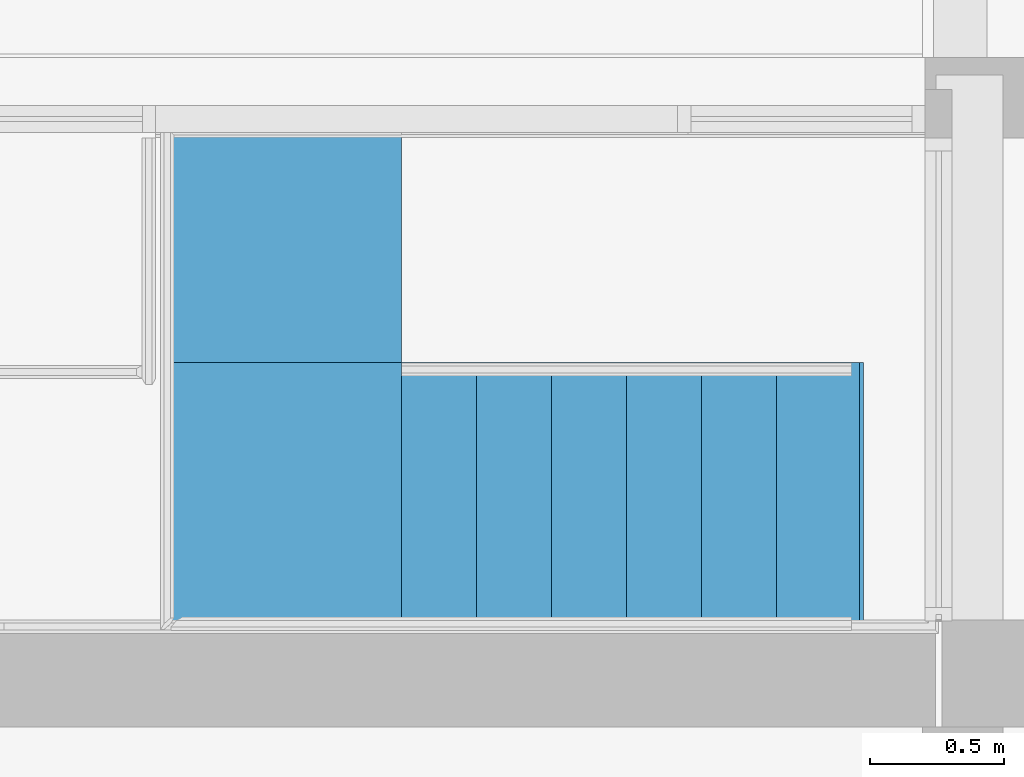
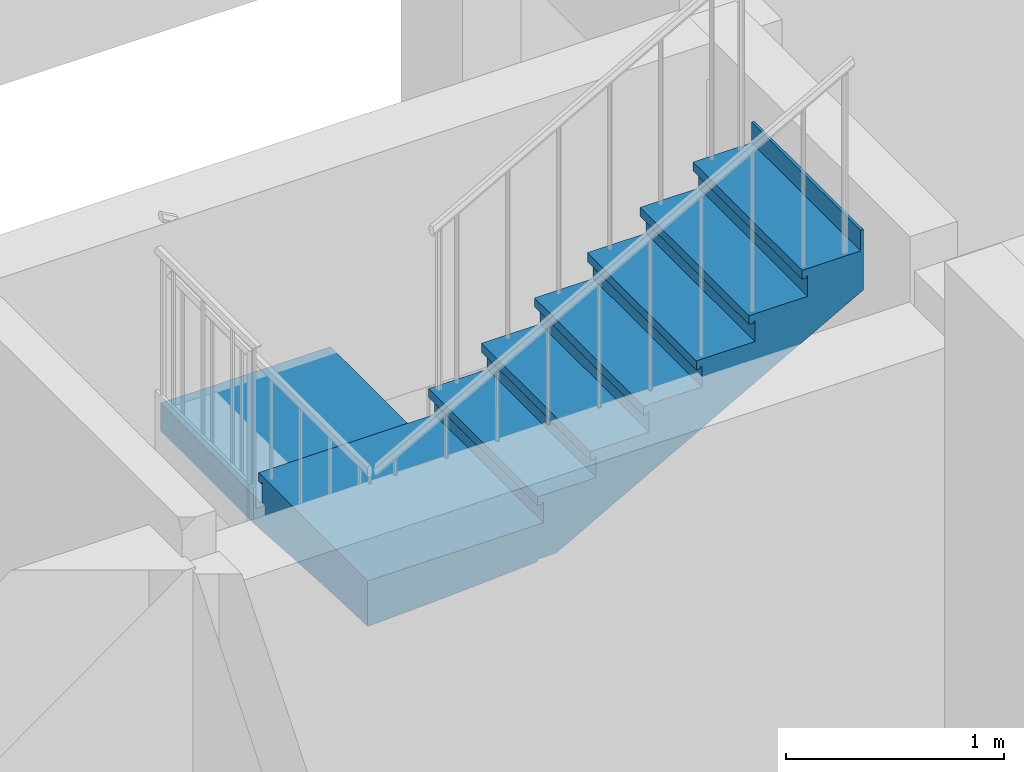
# One storey, part 99 of 117: 1 stair flight, 1 element without a shape of its own.
"""IFC4 building model written with IfcOpenShell, lengths in metres."""

from ifc_helpers import new_model, entity, si_unit, converted_unit, derived_unit, direction, frame, origin, place, context, subcontext, project, spatial, polygons, material, constituent, constituent_set, type_object, element, aggregate, save


model = new_model("IFC4")

# Units and contexts
model_context = context("Model", 3, precision=1e-05, world=origin(), true_north=direction((6.123031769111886e-17, 1.0)))
body_context = subcontext(model_context, "Body", "Model", "MODEL_VIEW")
ifc_project = project(units=[si_unit("LENGTHUNIT", "METRE"), si_unit("AREAUNIT", "SQUARE_METRE"), si_unit("VOLUMEUNIT", "CUBIC_METRE"), converted_unit("PLANEANGLEUNIT", "DEGREE", entity("IfcRatioMeasure", 0.017453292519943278), si_unit("PLANEANGLEUNIT", "RADIAN"), dimensions=[0, 0, 0, 0, 0, 0, 0]), si_unit("MASSUNIT", "GRAM", prefix="KILO"), derived_unit("MASSDENSITYUNIT", [(si_unit("MASSUNIT", "GRAM", prefix="KILO"), 1), (si_unit("LENGTHUNIT", "METRE"), -3)]), derived_unit("MOMENTOFINERTIAUNIT", [(si_unit("LENGTHUNIT", "METRE"), 4)]), si_unit("TIMEUNIT", "SECOND"), si_unit("FREQUENCYUNIT", "HERTZ"), si_unit("THERMODYNAMICTEMPERATUREUNIT", "DEGREE_CELSIUS"), derived_unit("THERMALTRANSMITTANCEUNIT", [(si_unit("MASSUNIT", "GRAM", prefix="KILO"), 1), (si_unit("THERMODYNAMICTEMPERATUREUNIT", "KELVIN"), -1), (si_unit("TIMEUNIT", "SECOND"), -3)]), derived_unit("VOLUMETRICFLOWRATEUNIT", [(si_unit("LENGTHUNIT", "METRE"), 3), (si_unit("TIMEUNIT", "SECOND"), -1)]), derived_unit("MASSFLOWRATEUNIT", [(si_unit("MASSUNIT", "GRAM", prefix="KILO"), 1), (si_unit("TIMEUNIT", "SECOND"), -1)]), derived_unit("ROTATIONALFREQUENCYUNIT", [(si_unit("TIMEUNIT", "SECOND"), -1)]), si_unit("ELECTRICCURRENTUNIT", "AMPERE"), si_unit("ELECTRICVOLTAGEUNIT", "VOLT"), si_unit("POWERUNIT", "WATT"), si_unit("FORCEUNIT", "NEWTON", prefix="KILO"), si_unit("ILLUMINANCEUNIT", "LUX"), si_unit("LUMINOUSFLUXUNIT", "LUMEN"), si_unit("LUMINOUSINTENSITYUNIT", "CANDELA"), derived_unit("USERDEFINED", [(si_unit("MASSUNIT", "GRAM", prefix="KILO"), -1), (si_unit("LENGTHUNIT", "METRE"), -2), (si_unit("TIMEUNIT", "SECOND"), 3), (si_unit("LUMINOUSFLUXUNIT", "LUMEN"), 1)]), derived_unit("SOUNDPOWERUNIT", [(si_unit("MASSUNIT", "GRAM", prefix="KILO"), 1), (si_unit("LENGTHUNIT", "METRE"), 2), (si_unit("TIMEUNIT", "SECOND"), -3)]), derived_unit("SOUNDPRESSUREUNIT", [(si_unit("MASSUNIT", "GRAM", prefix="KILO"), 1), (si_unit("LENGTHUNIT", "METRE"), -1), (si_unit("TIMEUNIT", "SECOND"), -2)]), derived_unit("LINEARVELOCITYUNIT", [(si_unit("LENGTHUNIT", "METRE"), 1), (si_unit("TIMEUNIT", "SECOND"), -1)]), si_unit("PRESSUREUNIT", "PASCAL"), derived_unit("USERDEFINED", [(si_unit("LENGTHUNIT", "METRE"), -2), (si_unit("MASSUNIT", "GRAM", prefix="KILO"), 1), (si_unit("TIMEUNIT", "SECOND"), -2)]), derived_unit("LINEARFORCEUNIT", [(si_unit("MASSUNIT", "GRAM", prefix="KILO"), 1), (si_unit("LENGTHUNIT", "METRE"), 1), (si_unit("TIMEUNIT", "SECOND"), -2), (si_unit("LENGTHUNIT", "METRE"), -1)]), derived_unit("PLANARFORCEUNIT", [(si_unit("MASSUNIT", "GRAM", prefix="KILO"), 1), (si_unit("LENGTHUNIT", "METRE"), 1), (si_unit("TIMEUNIT", "SECOND"), -2), (si_unit("LENGTHUNIT", "METRE"), -2)])], contexts=[model_context])

# Site, building, storey
site_placement = place(None, origin())
site = spatial("IfcSite", under=ifc_project, at=site_placement, Name="Superficie", CompositionType="ELEMENT")
building_placement = place(site_placement, origin())
building = spatial("IfcBuilding", under=site, at=building_placement, CompositionType="ELEMENT")
storey_placement = place(building_placement, origin())
storey = spatial("IfcBuildingStorey", under=building, at=storey_placement, Name="Nivel 0", CompositionType="ELEMENT", Elevation=0.0)

# Stair, stair flight
stair_type = type_object("IfcStairType", Name="Escalera prefabricada:Escalera prefabricada", PredefinedType="NOTDEFINED")
stair_placement = place(storey_placement, origin())
stair = element("IfcStair", 1, at=stair_placement, inside=storey, type_object=stair_type, Name="Escalera prefabricada:Escalera", ObjectType="Escalera prefabricada:Escalera prefabricada", PredefinedType="NOTDEFINED")
ifc_material_1 = material(Name="Cerámica blanca", Category="Cerámica")
ifc_constituent_1 = constituent(ifc_material_1, Name="Cerámica blanca", Category="Cerámica")
ifc_material_2 = material(Name="Hormigón", Category="Hormigón")
ifc_constituent_2 = constituent(ifc_material_2, Name="Hormigón", Category="Hormigón")
ifc_constituent_set = constituent_set(constituents=[ifc_constituent_1, ifc_constituent_2], Name="MaterialConstituentSet")
stair_flight_type = type_object("IfcStairFlightType", Name="Tramo monolítico:Huella 40 mm Mamperlán 30 mm Contrahuella 15 mm", PredefinedType="NOTDEFINED")
stair_flight_placement = place(stair_placement, frame((-6.300593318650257, 10.729234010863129, 0.0)))
stair_flight = element("IfcStairFlight", 2, at=stair_flight_placement, type_object=stair_flight_type, material=ifc_constituent_set, Name="Escalera prefabricada:Escalera:546754 Run 1", ObjectType="Tramo monolítico:Huella 40 mm Mamperlán 30 mm Contrahuella 15 mm", PredefinedType="NOTDEFINED", context=body_context, shape_type="Tessellation", body=[
    polygons([(0.9015952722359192, 1.901595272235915, 2.7055555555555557), (0.9015952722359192, 1.901595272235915, 2.755555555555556), (0.9015952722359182, 0.9565952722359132, 2.755555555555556), (0.9015952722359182, 0.9565952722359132, 2.7055555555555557), (0.878595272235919, 1.901595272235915, 2.7055555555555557), (0.8785952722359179, 0.9565952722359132, 2.7055555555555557), (0.8785952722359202, 1.901595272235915, 2.7155555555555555), (0.8785952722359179, 0.9565952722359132, 2.7155555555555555), (0.0015952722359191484, 1.901595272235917, 2.755555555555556), (0.0015952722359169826, 0.9565952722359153, 2.755555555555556), (0.0015952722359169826, 0.9565952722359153, 2.7155555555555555), (0.0015952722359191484, 1.901595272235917, 2.7155555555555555)], [[[1, 2, 3, 4]], [[5, 1, 4, 6]], [[7, 5, 6, 8]], [[9, 10, 3, 2]], [[7, 8, 11, 12]], [[9, 2, 1, 5, 7, 12]], [[10, 9, 12, 11]], [[3, 10, 11, 8, 6, 4]]], closed=True),
    polygons([(0.8715952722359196, 1.901595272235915, 2.7155555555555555), (0.8715952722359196, 1.901595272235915, 2.6), (0.8565952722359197, 1.901595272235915, 2.6), (0.8565952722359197, 1.901595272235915, 2.7155555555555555), (0.8715952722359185, 0.9565952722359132, 2.7155555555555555), (0.8565952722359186, 0.9565952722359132, 2.7155555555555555), (0.8565952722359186, 0.9565952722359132, 2.6), (0.8715952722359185, 0.9565952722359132, 2.6)], [[[1, 2, 3, 4]], [[5, 6, 7, 8]], [[2, 1, 5, 8]], [[3, 2, 8, 7]], [[4, 3, 7, 6]], [[1, 4, 6, 5]]], closed=True),
    polygons([(0.0015952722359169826, 0.9715952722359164, 2.8711111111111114), (0.0015952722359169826, 0.9715952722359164, 2.755555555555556), (0.0015952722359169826, 0.9565952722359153, 2.755555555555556), (0.0015952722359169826, 0.9565952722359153, 2.8711111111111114), (0.9015952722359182, 0.9715952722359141, 2.8711111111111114), (0.9015952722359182, 0.9565952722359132, 2.8711111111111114), (0.9015952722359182, 0.9565952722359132, 2.755555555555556), (0.9015952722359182, 0.9715952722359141, 2.755555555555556)], [[[1, 2, 3, 4]], [[5, 6, 7, 8]], [[2, 1, 5, 8]], [[3, 2, 8, 7]], [[4, 3, 7, 6]], [[1, 4, 6, 5]]], closed=True),
    polygons([(0.0015952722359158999, 0.0015952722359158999, 2.9111111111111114), (0.9465952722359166, 0.001595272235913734, 2.9111111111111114), (0.9465952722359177, 1.0015952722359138, 2.9111111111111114), (0.0015952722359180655, 1.001595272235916, 2.9111111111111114), (0.9015952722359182, 1.0015952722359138, 2.8711111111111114), (0.9465952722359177, 1.0015952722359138, 2.8711111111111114), (0.9465952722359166, 0.001595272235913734, 2.8711111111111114), (0.0015952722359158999, 0.0015952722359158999, 2.8711111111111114), (0.0015952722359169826, 0.9785952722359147, 2.8711111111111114), (0.9015952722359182, 0.9785952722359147, 2.8711111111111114), (0.9015952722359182, 1.0015952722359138, 2.861111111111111), (0.0015952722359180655, 1.001595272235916, 2.861111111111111), (0.0015952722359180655, 0.9785952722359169, 2.861111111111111), (0.9015952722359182, 0.9785952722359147, 2.861111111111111)], [[[1, 2, 3, 4]], [[5, 6, 7, 8, 9, 10]], [[4, 3, 6, 5, 11, 12]], [[1, 4, 12, 13, 9, 8]], [[2, 1, 8, 7]], [[3, 2, 7, 6]], [[14, 11, 5, 10]], [[13, 12, 11, 14]], [[9, 13, 14, 10]]], closed=True),
    polygons([(0.9315952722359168, 0.001595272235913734, 3.026666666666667), (0.9315952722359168, 0.001595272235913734, 2.9111111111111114), (0.9465952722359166, 0.001595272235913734, 2.9111111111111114), (0.9465952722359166, 0.001595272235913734, 3.026666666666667), (0.9315952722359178, 1.0015952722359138, 3.026666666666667), (0.9465952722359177, 1.0015952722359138, 3.026666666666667), (0.9465952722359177, 1.0015952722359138, 2.9111111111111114), (0.9315952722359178, 1.0015952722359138, 2.9111111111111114)], [[[1, 2, 3, 4]], [[5, 6, 7, 8]], [[2, 1, 5, 8]], [[3, 2, 8, 7]], [[4, 3, 7, 6]], [[1, 4, 6, 5]]], closed=True),
    polygons([(0.9015952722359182, 1.0015952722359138, 3.066666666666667), (0.9015952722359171, 0.001595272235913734, 3.066666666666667), (1.2265952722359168, 0.0015952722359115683, 3.066666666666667), (1.226595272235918, 1.0015952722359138, 3.066666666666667), (1.226595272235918, 1.0015952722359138, 3.026666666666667), (1.2265952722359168, 0.0015952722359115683, 3.026666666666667), (0.9245952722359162, 0.001595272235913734, 3.026666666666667), (0.9245952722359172, 1.0015952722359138, 3.026666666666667), (0.9245952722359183, 1.0015952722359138, 3.016666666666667), (0.9015952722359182, 1.0015952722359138, 3.016666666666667), (0.9015952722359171, 0.001595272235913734, 3.016666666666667), (0.9245952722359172, 0.001595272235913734, 3.016666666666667)], [[[1, 2, 3, 4]], [[5, 6, 7, 8]], [[1, 4, 5, 8, 9, 10]], [[3, 2, 11, 12, 7, 6]], [[4, 3, 6, 5]], [[11, 2, 1, 10]], [[12, 11, 10, 9]], [[7, 12, 9, 8]]], closed=True),
    polygons([(1.211595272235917, 0.0015952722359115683, 3.1822222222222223), (1.211595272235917, 0.0015952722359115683, 3.066666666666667), (1.2265952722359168, 0.0015952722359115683, 3.066666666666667), (1.2265952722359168, 0.0015952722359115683, 3.1822222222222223), (1.211595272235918, 1.0015952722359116, 3.1822222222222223), (1.226595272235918, 1.0015952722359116, 3.1822222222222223), (1.226595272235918, 1.0015952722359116, 3.066666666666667), (1.211595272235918, 1.0015952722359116, 3.066666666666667)], [[[1, 2, 3, 4]], [[5, 6, 7, 8]], [[2, 1, 5, 8]], [[3, 2, 8, 7]], [[4, 3, 7, 6]], [[1, 4, 6, 5]]], closed=True),
    polygons([(1.1815952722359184, 1.0015952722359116, 3.2222222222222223), (1.1815952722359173, 0.0015952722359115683, 3.2222222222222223), (1.506595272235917, 0.0015952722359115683, 3.2222222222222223), (1.5065952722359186, 1.0015952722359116, 3.2222222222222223), (1.5065952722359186, 1.0015952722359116, 3.1822222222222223), (1.506595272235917, 0.0015952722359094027, 3.1822222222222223), (1.2045952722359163, 0.0015952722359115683, 3.1822222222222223), (1.2045952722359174, 1.0015952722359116, 3.1822222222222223), (1.2045952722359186, 1.0015952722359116, 3.1722222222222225), (1.1815952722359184, 1.0015952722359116, 3.1722222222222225), (1.1815952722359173, 0.0015952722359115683, 3.1722222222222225), (1.2045952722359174, 0.0015952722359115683, 3.1722222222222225)], [[[1, 2, 3, 4]], [[5, 6, 7, 8]], [[1, 4, 5, 8, 9, 10]], [[3, 2, 11, 12, 7, 6]], [[4, 3, 6, 5]], [[11, 2, 1, 10]], [[12, 11, 10, 9]], [[7, 12, 9, 8]]], closed=True),
    polygons([(1.4915952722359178, 0.0015952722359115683, 3.3377777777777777), (1.4915952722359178, 0.0015952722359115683, 3.2222222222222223), (1.506595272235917, 0.0015952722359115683, 3.2222222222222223), (1.506595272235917, 0.0015952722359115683, 3.3377777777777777), (1.4915952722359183, 1.0015952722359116, 3.3377777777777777), (1.5065952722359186, 1.0015952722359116, 3.3377777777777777), (1.5065952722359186, 1.0015952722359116, 3.2222222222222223), (1.4915952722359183, 1.0015952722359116, 3.2222222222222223)], [[[1, 2, 3, 4]], [[5, 6, 7, 8]], [[2, 1, 5, 8]], [[3, 2, 8, 7]], [[4, 3, 7, 6]], [[1, 4, 6, 5]]], closed=True),
    polygons([(1.4615952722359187, 1.0015952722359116, 3.377777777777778), (1.461595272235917, 0.0015952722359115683, 3.377777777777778), (1.7865952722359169, 0.0015952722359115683, 3.377777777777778), (1.7865952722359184, 1.0015952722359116, 3.377777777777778), (1.7865952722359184, 1.0015952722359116, 3.3377777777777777), (1.7865952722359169, 0.0015952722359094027, 3.3377777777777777), (1.4845952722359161, 0.0015952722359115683, 3.3377777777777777), (1.4845952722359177, 1.0015952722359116, 3.3377777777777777), (1.4845952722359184, 1.0015952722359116, 3.327777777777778), (1.4615952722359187, 1.0015952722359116, 3.327777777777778), (1.461595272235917, 0.0015952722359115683, 3.327777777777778), (1.4845952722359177, 0.0015952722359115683, 3.327777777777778)], [[[1, 2, 3, 4]], [[5, 6, 7, 8]], [[1, 4, 5, 8, 9, 10]], [[3, 2, 11, 12, 7, 6]], [[4, 3, 6, 5]], [[11, 2, 1, 10]], [[12, 11, 10, 9]], [[7, 12, 9, 8]]], closed=True),
    polygons([(1.7715952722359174, 0.0015952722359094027, 3.4933333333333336), (1.7715952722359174, 0.0015952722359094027, 3.3777777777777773), (1.7865952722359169, 0.0015952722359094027, 3.3777777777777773), (1.7865952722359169, 0.0015952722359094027, 3.4933333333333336), (1.7715952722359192, 1.0015952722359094, 3.4933333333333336), (1.7865952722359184, 1.0015952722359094, 3.4933333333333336), (1.7865952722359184, 1.0015952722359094, 3.3777777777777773), (1.7715952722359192, 1.0015952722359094, 3.3777777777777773)], [[[1, 2, 3, 4]], [[5, 6, 7, 8]], [[2, 1, 5, 8]], [[3, 2, 8, 7]], [[4, 3, 7, 6]], [[1, 4, 6, 5]]], closed=True),
    polygons([(1.7415952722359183, 1.0015952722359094, 3.533333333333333), (1.7415952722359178, 0.0015952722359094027, 3.533333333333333), (2.0665952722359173, 0.001595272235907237, 3.533333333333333), (2.066595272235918, 1.0015952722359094, 3.533333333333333), (2.066595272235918, 1.0015952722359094, 3.4933333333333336), (2.0665952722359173, 0.001595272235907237, 3.4933333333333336), (1.7645952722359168, 0.0015952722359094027, 3.4933333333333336), (1.7645952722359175, 1.0015952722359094, 3.4933333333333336), (1.764595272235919, 1.0015952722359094, 3.4833333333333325), (1.7415952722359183, 1.0015952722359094, 3.4833333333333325), (1.7415952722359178, 0.0015952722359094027, 3.4833333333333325), (1.7645952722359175, 0.0015952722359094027, 3.4833333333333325)], [[[1, 2, 3, 4]], [[5, 6, 7, 8]], [[1, 4, 5, 8, 9, 10]], [[3, 2, 11, 12, 7, 6]], [[4, 3, 6, 5]], [[11, 2, 1, 10]], [[12, 11, 10, 9]], [[7, 12, 9, 8]]], closed=True),
    polygons([(2.051595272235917, 0.0015952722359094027, 3.648888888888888), (2.051595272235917, 0.0015952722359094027, 3.533333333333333), (2.0665952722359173, 0.0015952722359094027, 3.533333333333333), (2.0665952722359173, 0.0015952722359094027, 3.648888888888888), (2.051595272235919, 1.0015952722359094, 3.648888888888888), (2.066595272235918, 1.0015952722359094, 3.648888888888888), (2.066595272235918, 1.0015952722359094, 3.533333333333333), (2.051595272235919, 1.0015952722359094, 3.533333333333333)], [[[1, 2, 3, 4]], [[5, 6, 7, 8]], [[2, 1, 5, 8]], [[3, 2, 8, 7]], [[4, 3, 7, 6]], [[1, 4, 6, 5]]], closed=True),
    polygons([(2.021595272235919, 1.0015952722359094, 3.6888888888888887), (2.0215952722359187, 0.0015952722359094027, 3.6888888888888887), (2.3465952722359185, 0.001595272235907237, 3.6888888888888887), (2.346595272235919, 1.0015952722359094, 3.6888888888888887), (2.346595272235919, 1.0015952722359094, 3.648888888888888), (2.3465952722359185, 0.001595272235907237, 3.648888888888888), (2.0445952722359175, 0.0015952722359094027, 3.648888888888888), (2.0445952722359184, 1.0015952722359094, 3.648888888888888), (2.044595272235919, 1.0015952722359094, 3.6388888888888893), (2.0215952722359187, 1.0015952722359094, 3.6388888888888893), (2.0215952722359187, 0.0015952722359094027, 3.6388888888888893), (2.0445952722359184, 0.0015952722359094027, 3.6388888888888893)], [[[1, 2, 3, 4]], [[5, 6, 7, 8]], [[1, 4, 5, 8, 9, 10]], [[3, 2, 11, 12, 7, 6]], [[4, 3, 6, 5]], [[11, 2, 1, 10]], [[12, 11, 10, 9]], [[7, 12, 9, 8]]], closed=True),
    polygons([(2.331595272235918, 0.001595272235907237, 3.8044444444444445), (2.331595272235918, 0.001595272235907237, 3.6888888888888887), (2.3465952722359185, 0.001595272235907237, 3.6888888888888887), (2.3465952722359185, 0.001595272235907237, 3.8044444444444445), (2.3315952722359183, 1.0015952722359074, 3.8044444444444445), (2.346595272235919, 1.0015952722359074, 3.8044444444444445), (2.346595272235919, 1.0015952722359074, 3.6888888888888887), (2.3315952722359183, 1.0015952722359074, 3.6888888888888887)], [[[1, 2, 3, 4]], [[5, 6, 7, 8]], [[2, 1, 5, 8]], [[3, 2, 8, 7]], [[4, 3, 7, 6]], [[1, 4, 6, 5]]], closed=True),
    polygons([(2.6115952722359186, 0.001595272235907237, 3.959999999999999), (2.6115952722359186, 0.001595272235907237, 3.844444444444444), (2.6265952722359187, 0.001595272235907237, 3.844444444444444), (2.6265952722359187, 0.001595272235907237, 3.959999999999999), (2.61159527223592, 1.0015952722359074, 3.959999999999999), (2.6265952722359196, 1.0015952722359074, 3.959999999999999), (2.6265952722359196, 1.0015952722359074, 3.844444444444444), (2.61159527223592, 1.0015952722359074, 3.844444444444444)], [[[1, 2, 3, 4]], [[5, 6, 7, 8]], [[2, 1, 5, 8]], [[3, 2, 8, 7]], [[4, 3, 7, 6]], [[1, 4, 6, 5]]], closed=True),
    polygons([(2.301595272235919, 1.0015952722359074, 3.844444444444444), (2.301595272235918, 0.001595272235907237, 3.844444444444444), (2.626595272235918, 0.001595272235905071, 3.844444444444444), (2.6265952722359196, 1.0015952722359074, 3.844444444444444), (2.6265952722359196, 1.0015952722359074, 3.8044444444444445), (2.626595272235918, 0.001595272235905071, 3.8044444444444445), (2.3245952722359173, 0.001595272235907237, 3.8044444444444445), (2.3245952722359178, 1.0015952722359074, 3.8044444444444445), (2.324595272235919, 1.0015952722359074, 3.794444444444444), (2.301595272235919, 1.0015952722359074, 3.794444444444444), (2.301595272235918, 0.001595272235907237, 3.794444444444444), (2.324595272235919, 0.001595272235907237, 3.794444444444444)], [[[1, 2, 3, 4]], [[5, 6, 7, 8]], [[1, 4, 5, 8, 9, 10]], [[3, 2, 11, 12, 7, 6]], [[4, 3, 6, 5]], [[11, 2, 1, 10]], [[12, 11, 10, 9]], [[7, 12, 9, 8]]], closed=True),
    polygons([(0.8565952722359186, 0.9565952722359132, 2.7155555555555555), (0.8565952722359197, 1.901595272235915, 2.7155555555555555), (0.0015952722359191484, 1.901595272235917, 2.7155555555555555), (0.0015952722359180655, 0.9565952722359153, 2.7155555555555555), (0.8565952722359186, 0.9565952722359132, 2.6519287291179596), (0.8565952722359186, 0.9814046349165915, 2.6279211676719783), (0.8565952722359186, 1.001647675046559, 2.6), (0.8565952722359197, 1.901595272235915, 2.6), (0.0015952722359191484, 1.901595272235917, 2.6), (0.0015952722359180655, 1.0026433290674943, 2.6), (0.0015952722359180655, 0.9796193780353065, 2.6016886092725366), (0.0015952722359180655, 0.9565952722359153, 2.6033751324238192), (0.9465952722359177, 1.0015952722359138, 2.8711111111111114), (0.9015952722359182, 1.0015952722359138, 2.8711111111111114), (0.9015952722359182, 0.9761952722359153, 2.8711111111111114), (0.9015952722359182, 0.9565952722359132, 2.8711111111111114), (0.0015952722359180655, 0.9565952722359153, 2.8711111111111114), (0.0015952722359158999, 0.0015952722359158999, 2.8711111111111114), (0.9015952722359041, 0.001595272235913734, 2.8711111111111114), (0.9465952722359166, 0.001595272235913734, 2.8711111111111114), (0.9465952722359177, 1.0015952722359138, 2.7169845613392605), (0.9015952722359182, 1.0015952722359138, 2.7169845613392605), (0.9015952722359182, 0.9565952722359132, 2.7169845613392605), (0.9015952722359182, 0.9761952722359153, 2.7169845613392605), (0.9015952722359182, 0.9565952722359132, 2.7037805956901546), (0.8884100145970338, 0.9565952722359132, 2.6849633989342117), (0.8737819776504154, 0.9565952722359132, 2.6672318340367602), (0.0015952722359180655, 0.850660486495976, 2.611046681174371), (0.0015952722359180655, 0.744636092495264, 2.6184377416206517), (0.0015952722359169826, 0.6385990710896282, 2.625387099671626), (0.0015952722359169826, 0.5325708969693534, 2.631793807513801), (0.0015952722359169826, 0.42635200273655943, 2.6376234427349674), (0.0015952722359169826, 0.32028779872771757, 2.6428558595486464), (0.0015952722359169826, 0.21409625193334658, 2.647533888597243), (0.0015952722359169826, 0.10784569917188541, 2.6516986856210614), (0.0015952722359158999, 0.0015952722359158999, 2.6554002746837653), (0.10176333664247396, 0.0015952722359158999, 2.6592410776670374), (0.2018335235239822, 0.0015952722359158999, 2.6634711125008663), (0.30178614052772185, 0.0015952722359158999, 2.66811147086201), (0.40188320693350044, 0.001595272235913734, 2.6731858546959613), (0.5018919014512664, 0.001595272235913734, 2.678676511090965), (0.6017897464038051, 0.001595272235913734, 2.684550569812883), (0.7017645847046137, 0.001595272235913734, 2.690759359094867), (0.8017022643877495, 0.001595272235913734, 2.6972068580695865), (0.9015952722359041, 0.001595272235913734, 2.703780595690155), (0.9015952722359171, 0.001595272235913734, 2.7169845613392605), (0.9465952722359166, 0.001595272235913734, 2.7169845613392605), (1.226595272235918, 1.0015952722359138, 3.026666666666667), (0.9465952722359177, 1.0015952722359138, 3.026666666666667), (0.9465952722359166, 0.001595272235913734, 3.026666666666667), (1.2265952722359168, 0.0015952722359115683, 3.026666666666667), (1.2265952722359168, 1.0015952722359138, 2.8436332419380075), (0.9986276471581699, 1.0015952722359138, 2.7169845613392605), (0.9986276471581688, 0.001595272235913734, 2.71698456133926), (1.2265952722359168, 0.001595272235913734, 2.843633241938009), (1.5065952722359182, 1.0015952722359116, 3.1822222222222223), (1.226595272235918, 1.0015952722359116, 3.1822222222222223), (1.2265952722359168, 0.0015952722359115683, 3.1822222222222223), (1.506595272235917, 0.0015952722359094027, 3.1822222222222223), (1.5065952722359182, 1.0015952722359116, 2.999188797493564), (1.506595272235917, 0.0015952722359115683, 2.9991887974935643), (1.7865952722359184, 1.0015952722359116, 3.3377777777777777), (1.5065952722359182, 1.0015952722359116, 3.3377777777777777), (1.506595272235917, 0.0015952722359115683, 3.3377777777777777), (1.7865952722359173, 0.0015952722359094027, 3.3377777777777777), (1.7865952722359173, 1.0015952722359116, 3.154744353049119), (1.7865952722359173, 0.0015952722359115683, 3.1547443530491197), (2.0665952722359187, 1.0015952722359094, 3.493333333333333), (1.7865952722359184, 1.0015952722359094, 3.493333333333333), (1.7865952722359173, 0.0015952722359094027, 3.493333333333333), (2.0665952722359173, 0.001595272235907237, 3.493333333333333), (2.066595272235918, 1.0015952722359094, 3.3102999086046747), (2.0665952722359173, 0.0015952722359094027, 3.3102999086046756), (2.346595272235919, 1.0015952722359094, 3.6488888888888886), (2.0665952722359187, 1.0015952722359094, 3.6488888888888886), (2.0665952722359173, 0.0015952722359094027, 3.6488888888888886), (2.3465952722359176, 0.001595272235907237, 3.6488888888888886), (2.346595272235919, 1.0015952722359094, 3.4658554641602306), (2.3465952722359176, 0.0015952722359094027, 3.465855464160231), (2.626595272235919, 1.0015952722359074, 3.804444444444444), (2.346595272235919, 1.0015952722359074, 3.804444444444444), (2.3465952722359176, 0.001595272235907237, 3.804444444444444), (2.626595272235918, 0.001595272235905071, 3.804444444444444), (2.6265952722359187, 1.0015952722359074, 3.621411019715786), (2.626595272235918, 0.001595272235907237, 3.6214110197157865), (0.761595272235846, 1.0017583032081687, 2.6), (0.6665952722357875, 1.0018689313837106, 2.6), (0.5715952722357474, 1.0019795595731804, 2.6), (0.4765952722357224, 1.0020901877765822, 2.6), (0.3815952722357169, 1.0022008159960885, 2.6), (0.28659527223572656, 1.0023114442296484, 2.6), (0.1915952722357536, 1.0024220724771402, 2.6), (0.09659527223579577, 1.0025327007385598, 2.6), (0.44872760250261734, 0.8668070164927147, 2.619175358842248), (0.4586194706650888, 0.5833044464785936, 2.65003703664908), (0.6841512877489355, 0.5035096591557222, 2.676605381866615), (0.8565952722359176, 0.9935561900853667, 2.6111605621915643), (0.9015952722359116, 0.5386581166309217, 2.703780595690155), (0.3538211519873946, 0.31218542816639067, 2.659454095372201), (0.24692409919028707, 0.90004825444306, 2.610236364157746), (0.528259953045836, 0.945676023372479, 2.609892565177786), (0.3331591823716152, 0.6948699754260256, 2.6327448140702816), (0.5251984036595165, 0.2708095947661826, 2.6723801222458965), (0.7877838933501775, 0.3322451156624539, 2.6926611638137), (0.23521827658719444, 0.46127042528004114, 2.6450572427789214), (0.20103436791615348, 0.17982321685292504, 2.657174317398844), (0.39672253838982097, 0.1644735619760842, 2.66795164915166), (0.6839821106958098, 0.19864073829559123, 2.686308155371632), (0.14995382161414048, 0.3176960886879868, 2.6488156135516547), (0.21012370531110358, 0.7424083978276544, 2.623753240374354), (0.9015952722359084, 0.27012655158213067, 2.703780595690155), (0.15790512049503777, 0.5319449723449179, 2.6372638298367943), (0.14043108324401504, 0.6263424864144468, 2.6303160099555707), (0.5665558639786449, 0.5165956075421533, 2.6638698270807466), (0.11176437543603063, 0.4106643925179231, 2.642483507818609), (0.32568230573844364, 0.5988904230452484, 2.6403634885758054), (0.597286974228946, 0.788187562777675, 2.640453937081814), (0.8565952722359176, 0.9874804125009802, 2.6195408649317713), (0.6557657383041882, 0.9097870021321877, 2.6236738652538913), (0.6847769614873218, 0.9506818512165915, 2.615303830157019), (0.9015952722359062, 0.13586091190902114, 2.703780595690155), (0.8332720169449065, 0.659261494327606, 2.69077529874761), (0.14449960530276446, 0.8209533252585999, 2.6155400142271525), (0.718224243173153, 0.3971515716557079, 2.684334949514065), (0.7693828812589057, 0.585887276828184, 2.683451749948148), (0.7830804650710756, 0.7553261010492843, 2.674168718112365), (0.7202605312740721, 0.7495270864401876, 2.6626093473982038), (0.8304290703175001, 0.7712501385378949, 2.6839980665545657), (0.29400248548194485, 0.3876780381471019, 2.6522705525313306), (0.43614683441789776, 0.46645077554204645, 2.6565199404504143), (0.5566860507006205, 0.6019083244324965, 2.656776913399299), (0.6179949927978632, 0.7370087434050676, 2.6496397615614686), (0.8565952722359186, 0.9689999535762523, 2.6399249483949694), (0.895002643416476, 0.9565952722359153, 2.6943719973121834), (0.901595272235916, 0.7476266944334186, 2.703780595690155), (0.6921572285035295, 0.8877467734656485, 2.6329487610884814), (0.5026387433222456, 0.8134849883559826, 2.6291647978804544), (0.30046821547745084, 0.8473915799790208, 2.6166551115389), (0.3915059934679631, 0.907987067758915, 2.612059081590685), (0.35077405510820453, 0.9517391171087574, 2.606036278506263), (0.7403879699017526, 0.8688062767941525, 2.6455668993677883), (0.45232198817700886, 0.7076652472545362, 2.6383252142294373), (0.5162893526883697, 0.6926183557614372, 2.6446996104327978), (0.696628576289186, 0.9769730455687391, 2.6079699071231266), (0.7918338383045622, 0.49461079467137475, 2.6897048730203), (0.8514063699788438, 0.5475590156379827, 2.696510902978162), (0.8722800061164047, 0.7091767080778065, 2.6971823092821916), (0.8673766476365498, 0.8104896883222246, 2.6920830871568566), (0.9015952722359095, 0.4043924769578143, 2.703780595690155), (0.6255157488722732, 0.2876667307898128, 2.679419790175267), (0.5799869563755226, 0.1365552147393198, 2.680280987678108), (0.4687550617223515, 0.3939874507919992, 2.662915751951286), (0.8115320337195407, 0.1778939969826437, 2.6965897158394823), (0.7384157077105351, 0.8352462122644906, 2.652563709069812), (0.6596910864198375, 0.7254507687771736, 2.6562859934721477), (0.607706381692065, 0.38681272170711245, 2.6743407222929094), (0.6277792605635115, 0.5102958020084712, 2.670212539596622), (0.6622405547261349, 0.6292792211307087, 2.666059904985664), (0.7103080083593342, 0.6251957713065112, 2.672738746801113), (0.5393661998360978, 0.3868727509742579, 2.668626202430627), (0.7419858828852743, 0.7318270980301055, 2.668508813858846), (0.5377772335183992, 0.7891649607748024, 2.6349677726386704), (0.48288377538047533, 0.1286482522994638, 2.6742539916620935), (0.8810959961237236, 0.9565952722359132, 2.6760976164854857), (0.8651886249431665, 0.956595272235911, 2.6595802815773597), (0.8565952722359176, 0.975202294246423, 2.633923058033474), (0.35853132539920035, 0.7726091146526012, 2.6264210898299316), (0.7176030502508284, 0.87750247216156, 2.6392509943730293), (0.8565952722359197, 0.9627976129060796, 2.645926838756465)], [[[4, 1, 2, 3]], [[16, 17, 18, 19, 20, 13, 14, 15]], [[51, 48, 49, 50]], [[59, 56, 57, 58]], [[65, 62, 63, 64]], [[71, 68, 69, 70]], [[77, 74, 75, 76]], [[83, 80, 81, 82]], [[7, 8, 2, 1, 5, 169, 133, 166, 6, 118, 97]], [[80, 83, 85, 84]], [[46, 45, 121, 111, 149, 98, 135, 25, 23]], [[3, 2, 8, 9]], [[14, 13, 49, 48, 57, 56, 63, 62, 69, 68, 75, 74, 81, 80, 84, 78, 72, 66, 60, 52, 53, 21, 22]], [[16, 23, 25, 134, 26, 164, 27, 165, 5, 1, 4, 17]], [[12, 28, 29, 30, 31, 32, 33, 34, 35, 36, 18, 17, 4, 3, 9, 10, 11]], [[15, 14, 22, 24, 23, 16]], [[50, 49, 13, 20]], [[58, 57, 48, 51]], [[64, 63, 56, 59]], [[70, 69, 62, 65]], [[76, 75, 68, 71]], [[82, 81, 74, 77]], [[44, 45, 46, 47, 54, 55, 61, 67, 73, 79, 85, 83, 82, 77, 76, 71, 70, 65, 64, 59, 58, 51, 50, 20, 19, 18, 36, 37, 38, 39, 40, 41, 42, 43]], [[9, 8, 7, 86, 87, 88, 89, 90, 91, 92, 93, 10]], [[23, 24, 22, 21, 53, 54, 47, 46]], [[140, 101, 139]], [[106, 34, 109]], [[101, 140, 89]], [[102, 167, 137]], [[121, 45, 44]], [[123, 29, 28]], [[120, 97, 118]], [[108, 43, 42]], [[144, 97, 120]], [[150, 96, 124]], [[86, 7, 144, 88, 87]], [[151, 42, 41]], [[109, 105, 129]], [[123, 28, 100]], [[11, 93, 12]], [[153, 121, 44]], [[125, 122, 145]], [[11, 10, 93]], [[92, 100, 93]], [[116, 112, 102]], [[101, 144, 120]], [[93, 100, 12]], [[150, 156, 96]], [[12, 100, 28]], [[112, 113, 102]], [[140, 92, 91, 90, 89]], [[107, 40, 39]], [[110, 30, 29]], [[138, 139, 94]], [[132, 154, 155]], [[31, 30, 113]], [[105, 115, 112]], [[103, 150, 151]], [[161, 159, 158]], [[147, 25, 135, 98]], [[31, 113, 112]], [[145, 124, 125]], [[129, 99, 106]], [[152, 99, 130]], [[108, 104, 153]], [[104, 145, 146]], [[120, 94, 101]], [[107, 39, 38]], [[104, 149, 111]], [[116, 105, 112]], [[32, 31, 112]], [[116, 142, 143]], [[106, 109, 129]], [[101, 89, 88]], [[36, 35, 37]], [[33, 109, 34]], [[27, 126, 161]], [[108, 124, 104]], [[106, 107, 38]], [[107, 106, 99]], [[33, 115, 109]], [[7, 97, 144]], [[38, 37, 106]], [[33, 32, 115]], [[151, 163, 103]], [[110, 123, 138]], [[34, 106, 35]], [[107, 163, 40]], [[152, 107, 99]], [[37, 35, 106]], [[30, 110, 113]], [[102, 113, 110]], [[129, 130, 99]], [[95, 132, 131]], [[112, 115, 32]], [[109, 115, 105]], [[142, 116, 102]], [[95, 105, 116]], [[137, 94, 119]], [[141, 117, 168]], [[136, 119, 6]], [[119, 118, 6]], [[136, 137, 119]], [[118, 119, 120]], [[94, 120, 119]], [[43, 108, 153]], [[121, 153, 111]], [[134, 148, 26]], [[138, 123, 100]], [[110, 29, 123]], [[150, 124, 108]], [[124, 96, 125]], [[125, 96, 159]], [[122, 125, 128]], [[157, 96, 156]], [[164, 26, 128]], [[131, 114, 130]], [[154, 165, 127]], [[125, 126, 128]], [[128, 126, 164]], [[105, 95, 129]], [[130, 129, 95]], [[131, 130, 95]], [[152, 130, 114]], [[142, 117, 143]], [[131, 155, 158]], [[136, 168, 117]], [[132, 141, 154]], [[141, 132, 117]], [[134, 147, 148]], [[136, 6, 166]], [[147, 98, 146]], [[117, 142, 162]], [[162, 136, 117]], [[102, 110, 167]], [[139, 138, 100]], [[138, 94, 167]], [[140, 139, 100]], [[94, 139, 101]], [[140, 100, 92]], [[141, 133, 169, 5]], [[154, 141, 5]], [[162, 102, 137]], [[117, 132, 143]], [[132, 95, 143]], [[116, 143, 95]], [[88, 144, 101]], [[146, 145, 122]], [[104, 124, 145]], [[146, 122, 147]], [[146, 98, 149]], [[148, 147, 122]], [[25, 147, 134]], [[122, 128, 148]], [[26, 148, 128]], [[108, 42, 151]], [[146, 149, 104]], [[150, 103, 156]], [[40, 163, 41]], [[108, 151, 150]], [[114, 157, 160]], [[107, 152, 103]], [[153, 44, 43]], [[111, 153, 104]], [[138, 167, 110]], [[132, 155, 131]], [[5, 165, 154]], [[158, 155, 127]], [[160, 103, 152]], [[103, 160, 156]], [[158, 157, 114]], [[159, 96, 157]], [[131, 158, 114]], [[161, 158, 127]], [[158, 159, 157]], [[125, 159, 126]], [[114, 160, 152]], [[157, 156, 160]], [[27, 161, 127]], [[159, 161, 126]], [[102, 162, 142]], [[136, 162, 137]], [[103, 163, 107]], [[41, 163, 151]], [[126, 27, 164]], [[127, 155, 154]], [[165, 27, 127]], [[168, 166, 133]], [[94, 137, 167]], [[166, 168, 136]], [[133, 141, 168]], [[55, 54, 53, 52, 60, 66, 72, 78, 84, 85, 79, 73, 67, 61]]], closed=True),
])
aggregate(stair, [stair_flight])

save(model, "model.ifc")
